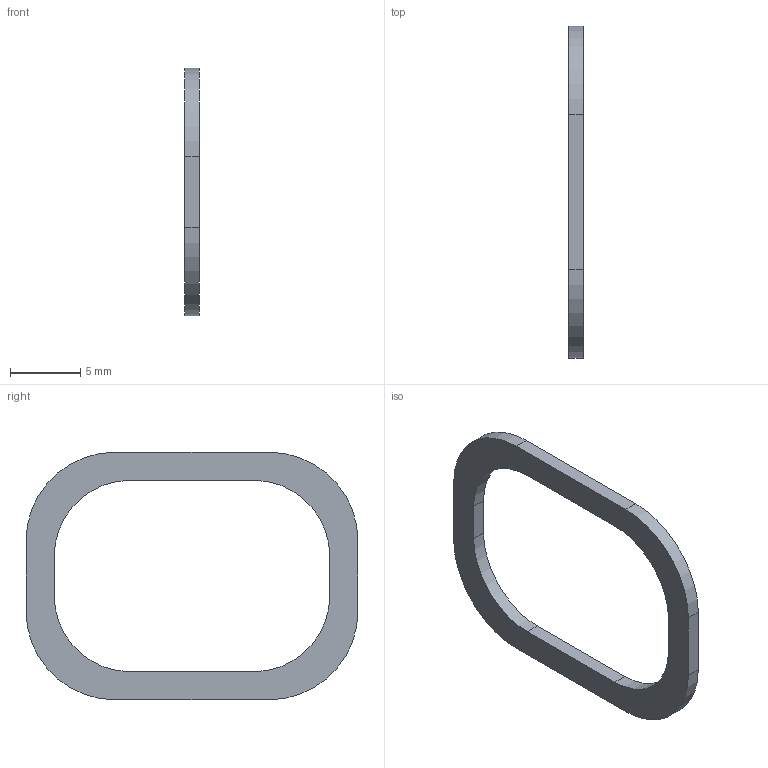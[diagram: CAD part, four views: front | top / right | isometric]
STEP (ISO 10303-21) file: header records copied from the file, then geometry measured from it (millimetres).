
FILE_DESCRIPTION(('Open CASCADE Model'),'2;1');
FILE_NAME('Open CASCADE Shape Model','2026-09-06T11:28:54',('Author'),( 'Open CASCADE'),'Open CASCADE STEP processor 7.7','Open CASCADE 7.7' ,'Unknown');
FILE_SCHEMA(('AUTOMOTIVE_DESIGN { 1 0 10303 214 1 1 1 1 }'));
Length unit declared in the file: millimetre
Products named in the file (1): Open CASCADE STEP translator 7.7 19
Bounding box: 1 x 23.6 x 17.6 mm (x, y, z)
Volume: 139.8 mm3; surface area: 408.2 mm2
Topology: 1 solids, 1 shells, 18 faces, 48 edges, 32 vertices
Faces by surface type: plane 10, cylinder 8
Entity records: 1218 total; most frequent: CARTESIAN_POINT 219, DIRECTION 194, LINE 112, VECTOR 112, ORIENTED_EDGE 96, PCURVE 96, DEFINITIONAL_REPRESENTATION 96, EDGE_CURVE 48
